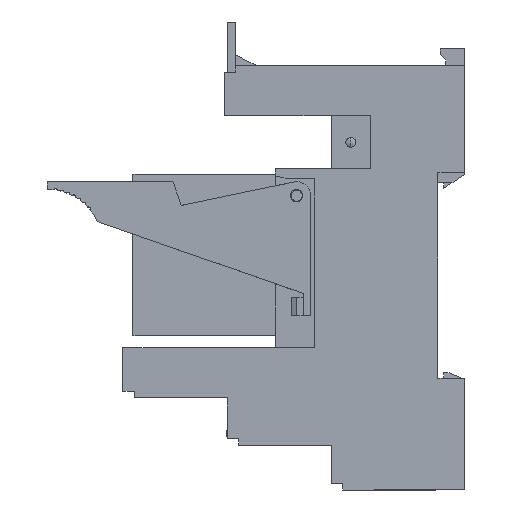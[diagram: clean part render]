
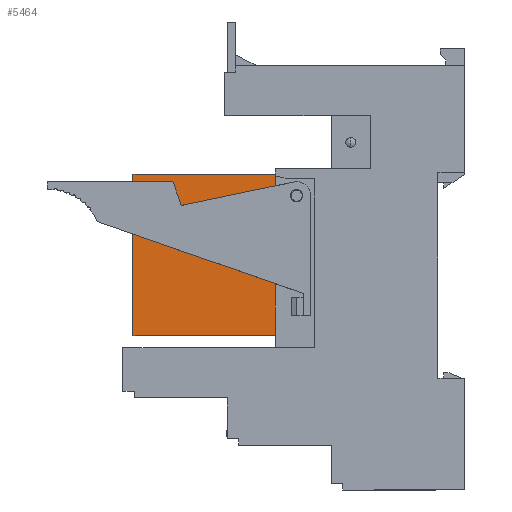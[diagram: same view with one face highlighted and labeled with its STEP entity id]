
A CAD part, left-side view. The second image highlights one B-rep face of the part: STEP entity #5464.
In plain terms, the highlighted planar face has unit normal (-1, 0, 0).
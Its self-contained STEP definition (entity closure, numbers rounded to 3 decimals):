
#732 = VECTOR ( 'NONE', #22842, 1000. ) ;
#735 = VECTOR ( 'NONE', #22836, 1000. ) ;
#737 = VECTOR ( 'NONE', #22833, 1000. ) ;
#1408 = PLANE ( 'NONE',  #18489 ) ;
#1409 = CARTESIAN_POINT ( 'NONE',  ( -6.2, 59.4, 18.5 ) ) ;
#1410 = DIRECTION ( 'NONE',  ( 1., 0., 0. ) ) ;
#1411 = DIRECTION ( 'NONE',  ( 0., 0., -1. ) ) ;
#5016 = EDGE_CURVE ( 'NONE', #12922, #12923, #22831, .T. ) ;
#5017 = EDGE_CURVE ( 'NONE', #12923, #7621, #22834, .T. ) ;
#5019 = EDGE_CURVE ( 'NONE', #12922, #7622, #22840, .T. ) ;
#5464 = ADVANCED_FACE ( 'NONE', ( #18481 ), #1408, .F. ) ;
#6316 = EDGE_CURVE ( 'NONE', #7622, #7621, #20135, .T. ) ;
#6693 = EDGE_LOOP ( 'NONE', ( #9790, #9787, #9792, #9783 ) ) ;
#7621 = VERTEX_POINT ( 'NONE', #8207 ) ;
#7622 = VERTEX_POINT ( 'NONE', #8208 ) ;
#8207 = CARTESIAN_POINT ( 'NONE',  ( -6.2, 33.9, 18.5 ) ) ;
#8208 = CARTESIAN_POINT ( 'NONE',  ( -6.2, 33.9, -10.4 ) ) ;
#8728 = CARTESIAN_POINT ( 'NONE',  ( -6.2, 59.4, -10.4 ) ) ;
#8729 = CARTESIAN_POINT ( 'NONE',  ( -6.2, 59.4, 18.5 ) ) ;
#9783 = ORIENTED_EDGE ( 'NONE', *, *, #5019, .T. ) ;
#9787 = ORIENTED_EDGE ( 'NONE', *, *, #5017, .F. ) ;
#9790 = ORIENTED_EDGE ( 'NONE', *, *, #6316, .T. ) ;
#9792 = ORIENTED_EDGE ( 'NONE', *, *, #5016, .F. ) ;
#12922 = VERTEX_POINT ( 'NONE', #8728 ) ;
#12923 = VERTEX_POINT ( 'NONE', #8729 ) ;
#15257 = VECTOR ( 'NONE', #20137, 1000. ) ;
#18481 = FACE_OUTER_BOUND ( 'NONE', #6693, .T. ) ;
#18489 = AXIS2_PLACEMENT_3D ( 'NONE', #1409, #1410, #1411 ) ;
#20135 = LINE ( 'NONE', #20136, #15257 ) ;
#20136 = CARTESIAN_POINT ( 'NONE',  ( -6.2, 33.9, 18.5 ) ) ;
#20137 = DIRECTION ( 'NONE',  ( 0., 0., 1. ) ) ;
#22831 = LINE ( 'NONE', #22832, #737 ) ;
#22832 = CARTESIAN_POINT ( 'NONE',  ( -6.2, 59.4, 18.5 ) ) ;
#22833 = DIRECTION ( 'NONE',  ( 0., 0., 1. ) ) ;
#22834 = LINE ( 'NONE', #22835, #735 ) ;
#22835 = CARTESIAN_POINT ( 'NONE',  ( -6.2, 59.4, 18.5 ) ) ;
#22836 = DIRECTION ( 'NONE',  ( 0., -1., 0. ) ) ;
#22840 = LINE ( 'NONE', #22841, #732 ) ;
#22841 = CARTESIAN_POINT ( 'NONE',  ( -6.2, 59.4, -10.4 ) ) ;
#22842 = DIRECTION ( 'NONE',  ( 0., -1., 0. ) ) ;
